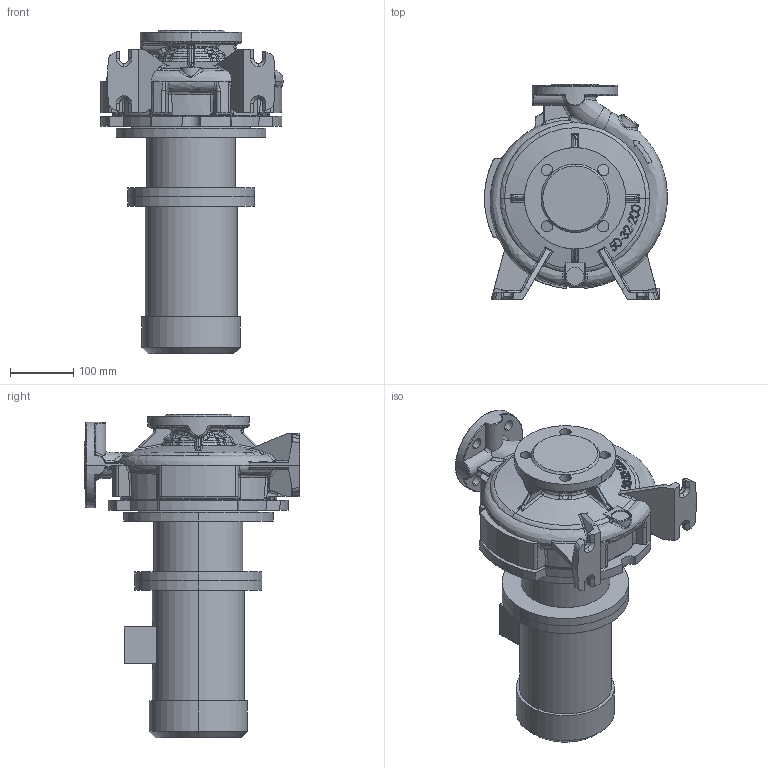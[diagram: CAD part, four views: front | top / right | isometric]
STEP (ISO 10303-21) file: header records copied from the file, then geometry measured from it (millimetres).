
FILE_DESCRIPTION (( 'STEP AP214' ), '1' );
FILE_NAME ('KRM 50-32-200-4-0,75.STEP', '2026-04-23T09:27:52', ( '' ), ( '' ), 'SwSTEP 2.0', 'SolidWorks 2016', '' );
FILE_SCHEMA (( 'AUTOMOTIVE_DESIGN' ));
Length unit declared in the file: millimetre
Products named in the file (1): KRM 50-32-200-4-0,75
Bounding box: 288.74 x 340 x 509.8 mm (x, y, z)
Volume: 13861271.9 mm3; surface area: 865483.1 mm2
Topology: 4 solids, 4 shells, 918 faces, 2286 edges, 1391 vertices
Faces by surface type: bspline 346, plane 206, cylinder 186, torus 78, cone 75, sphere 27
Entity records: 63615 total; most frequent: CARTESIAN_POINT 34616, ORIENTED_EDGE 4538, DIRECTION 3125, EDGE_CURVE 2269, VERTEX_POINT 1391, AXIS2_PLACEMENT_3D 1297, EDGE_LOOP 966, UNCERTAINTY_MEASURE_WITH_UNIT 924
